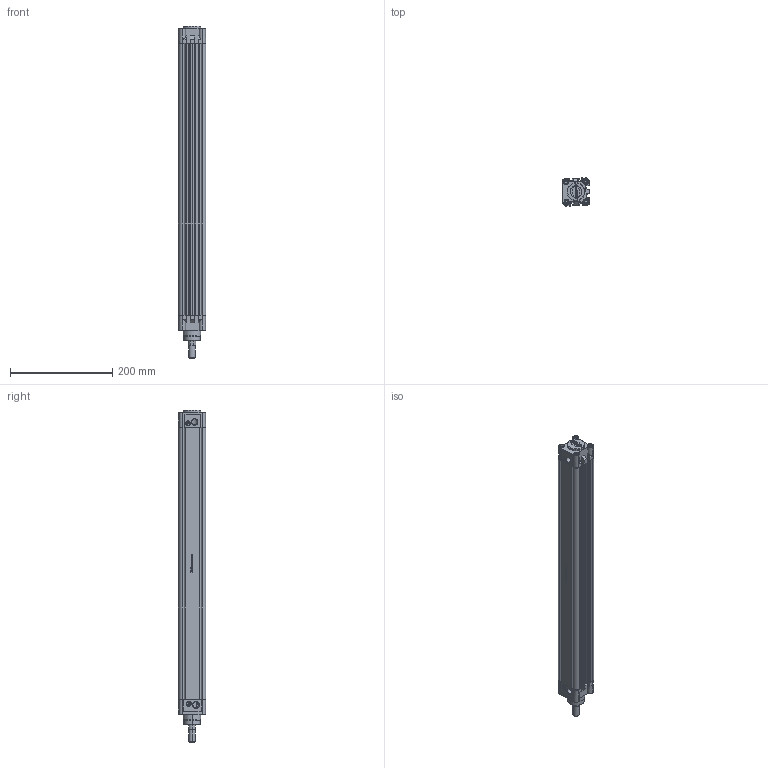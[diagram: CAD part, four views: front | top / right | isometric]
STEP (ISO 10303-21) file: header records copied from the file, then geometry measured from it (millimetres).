
FILE_DESCRIPTION (( 'STEP AP214' ), '1' );
FILE_NAME ('RIC_40_500_WEB.STEP', '2021-01-10T10:53:16', ( '' ), ( '' ), 'SwSTEP 2.0', 'SolidWorks 2021', '' );
FILE_SCHEMA (( 'AUTOMOTIVE_DESIGN' ));
Length unit declared in the file: millimetre
Products named in the file (8): yastýklama civatasý; m6kapakcivatasi; ric40arkakapak; ric40onkapak; RIC_40_500_WEB; 16_K_MIL_WEB; RIC_40_BORU_WEB_RIC 40-250; ric40bogazkecesi
Assembly tree (15 placements, depth 2):
  RIC_40_500_WEB
    ric40arkakapak
    ric40onkapak
    RIC_40_BORU_WEB_RIC 40-250
    ric40bogazkecesi
    yastýklama civatasý  x2
    m6kapakcivatasi  x8
    16_K_MIL_WEB
Bounding box: 54.22 x 54.22 x 649.5 mm (x, y, z)
Volume: 673283.6 mm3; surface area: 321021.1 mm2
Topology: 22 solids, 22 shells, 1035 faces, 2485 edges, 1585 vertices
Faces by surface type: plane 553, cylinder 227, cone 131, bspline 98, torus 26
Entity records: 31879 total; most frequent: CARTESIAN_POINT 10352, ORIENTED_EDGE 3982, DIRECTION 3656, EDGE_CURVE 1991, VERTEX_POINT 1289, VECTOR 1264, LINE 1264, AXIS2_PLACEMENT_3D 1196
